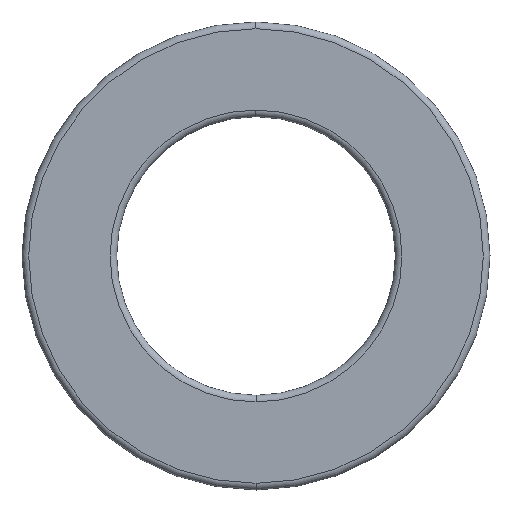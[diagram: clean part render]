
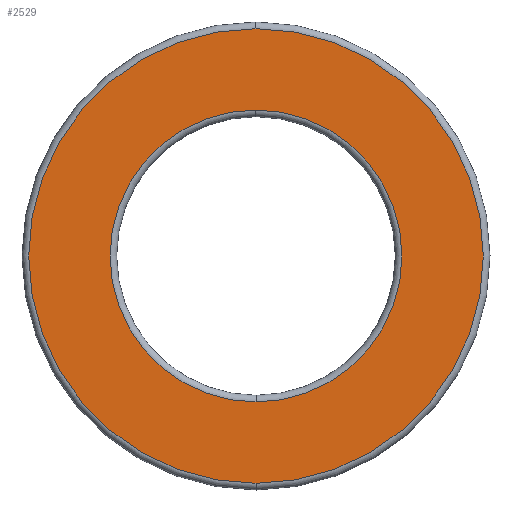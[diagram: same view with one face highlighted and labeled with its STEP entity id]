
A CAD part, left-side view. The second image highlights one B-rep face of the part: STEP entity #2529.
In plain terms, the highlighted planar face has unit normal (-1, 0, 0).
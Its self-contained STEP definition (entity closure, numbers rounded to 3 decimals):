
#15 = ORIENTED_EDGE ( 'NONE', *, *, #1963, .T. ) ;
#110 = DIRECTION ( 'NONE',  ( 1., 0., 0. ) ) ;
#233 = ORIENTED_EDGE ( 'NONE', *, *, #795, .F. ) ;
#327 = CARTESIAN_POINT ( 'NONE',  ( 0., 0., -20.4 ) ) ;
#422 = VERTEX_POINT ( 'NONE', #327 ) ;
#511 = CARTESIAN_POINT ( 'NONE',  ( 0., 0., 0. ) ) ;
#663 = DIRECTION ( 'NONE',  ( 0., 0., -1. ) ) ;
#693 = AXIS2_PLACEMENT_3D ( 'NONE', #1550, #1330, #915 ) ;
#712 = CARTESIAN_POINT ( 'NONE',  ( 0., 0., -13.1 ) ) ;
#775 = CIRCLE ( 'NONE', #693, 20.4 ) ;
#795 = EDGE_CURVE ( 'NONE', #1052, #422, #775, .T. ) ;
#818 = AXIS2_PLACEMENT_3D ( 'NONE', #2511, #1062, #663 ) ;
#915 = DIRECTION ( 'NONE',  ( 0., 0., -1. ) ) ;
#970 = AXIS2_PLACEMENT_3D ( 'NONE', #2509, #1884, #2344 ) ;
#1048 = PLANE ( 'NONE',  #970 ) ;
#1052 = VERTEX_POINT ( 'NONE', #1464 ) ;
#1061 = FACE_BOUND ( 'NONE', #2300, .T. ) ;
#1062 = DIRECTION ( 'NONE',  ( 1., 0., 0. ) ) ;
#1160 = EDGE_CURVE ( 'NONE', #422, #1052, #1333, .T. ) ;
#1207 = CIRCLE ( 'NONE', #2279, 13.1 ) ;
#1234 = DIRECTION ( 'NONE',  ( 0., 0., -1. ) ) ;
#1248 = ORIENTED_EDGE ( 'NONE', *, *, #1160, .F. ) ;
#1280 = DIRECTION ( 'NONE',  ( 1., 0., 0. ) ) ;
#1326 = VERTEX_POINT ( 'NONE', #1945 ) ;
#1330 = DIRECTION ( 'NONE',  ( 1., 0., 0. ) ) ;
#1333 = CIRCLE ( 'NONE', #818, 20.4 ) ;
#1464 = CARTESIAN_POINT ( 'NONE',  ( 0., 0., 20.4 ) ) ;
#1550 = CARTESIAN_POINT ( 'NONE',  ( 0., 0., 0. ) ) ;
#1884 = DIRECTION ( 'NONE',  ( -1., 0., 0. ) ) ;
#1945 = CARTESIAN_POINT ( 'NONE',  ( 0., 0., 13.1 ) ) ;
#1963 = EDGE_CURVE ( 'NONE', #1971, #1326, #1207, .T. ) ;
#1971 = VERTEX_POINT ( 'NONE', #712 ) ;
#2069 = EDGE_LOOP ( 'NONE', ( #1248, #233 ) ) ;
#2279 = AXIS2_PLACEMENT_3D ( 'NONE', #511, #110, #2584 ) ;
#2300 = EDGE_LOOP ( 'NONE', ( #15, #2676 ) ) ;
#2304 = CIRCLE ( 'NONE', #2637, 13.1 ) ;
#2344 = DIRECTION ( 'NONE',  ( 0., 0., 1. ) ) ;
#2457 = EDGE_CURVE ( 'NONE', #1326, #1971, #2304, .T. ) ;
#2492 = CARTESIAN_POINT ( 'NONE',  ( 0., 0., 0. ) ) ;
#2509 = CARTESIAN_POINT ( 'NONE',  ( 0., 20.4, 0. ) ) ;
#2511 = CARTESIAN_POINT ( 'NONE',  ( 0., 0., 0. ) ) ;
#2529 = ADVANCED_FACE ( 'NONE', ( #1061, #2542 ), #1048, .T. ) ;
#2542 = FACE_OUTER_BOUND ( 'NONE', #2069, .T. ) ;
#2584 = DIRECTION ( 'NONE',  ( 0., 0., -1. ) ) ;
#2637 = AXIS2_PLACEMENT_3D ( 'NONE', #2492, #1280, #1234 ) ;
#2676 = ORIENTED_EDGE ( 'NONE', *, *, #2457, .T. ) ;
